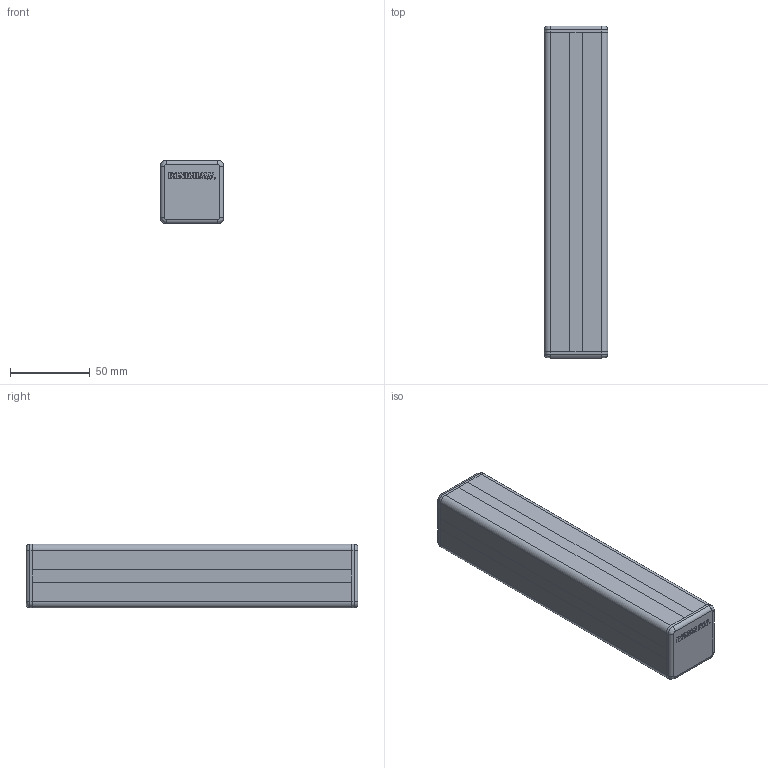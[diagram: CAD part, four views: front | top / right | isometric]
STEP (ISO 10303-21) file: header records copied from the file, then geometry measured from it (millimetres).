
FILE_DESCRIPTION(/* description */ (''),/* implementation_level */ '2;1');
FILE_NAME(/* name */ 'LA-6007-0300-A.stp',/* time_stamp */ '2015-01-28T11:07:55+00:00',/* author */ (''),/* organization */ (''),/* preprocessor_version */ 'ST-DEVELOPER v11',/* originating_system */ 'SIEMENS PLM Software NX 7.5',/* authorisation */ '');
FILE_SCHEMA (('AUTOMOTIVE_DESIGN { 1 0 10303 214 1 1 1 1 }'));
Length unit declared in the file: millimetre
Products named in the file (1): rt13982Avlab
Bounding box: 40 x 208 x 40 mm (x, y, z)
Volume: 329532.6 mm3; surface area: 34665.3 mm2
Topology: 1 solids, 1 shells, 76 faces, 266 edges, 218 vertices
Faces by surface type: plane 44, bspline 12, cylinder 12, cone 8
Entity records: 4289 total; most frequent: CARTESIAN_POINT 1740, ORIENTED_EDGE 532, DIRECTION 273, EDGE_CURVE 266, VERTEX_POINT 218, B_SPLINE_CURVE_WITH_KNOTS 163, AXIS2_PLACEMENT_3D 105, EDGE_LOOP 102
